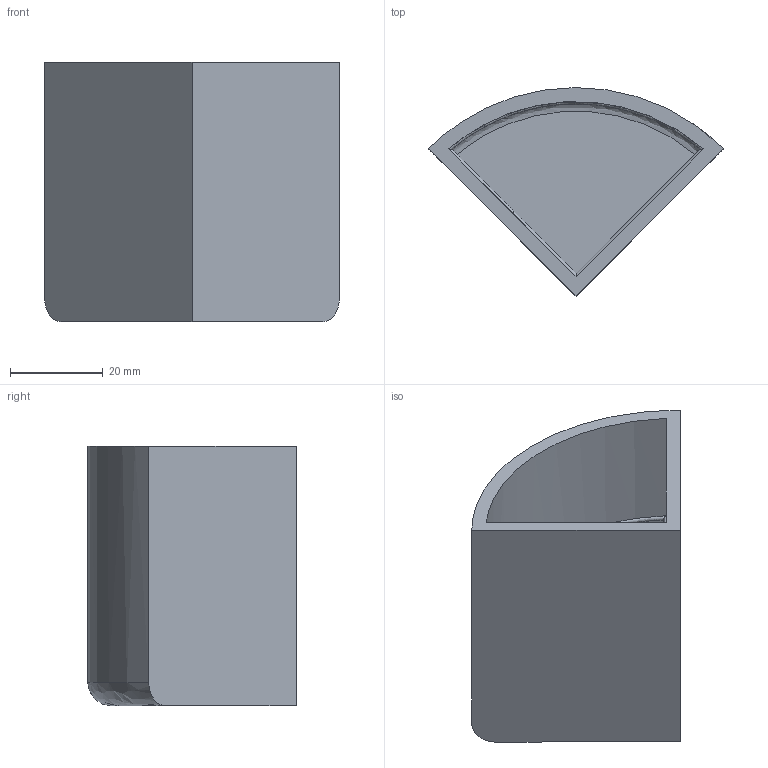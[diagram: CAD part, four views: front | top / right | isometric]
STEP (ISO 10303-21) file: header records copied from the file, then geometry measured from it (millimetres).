
FILE_DESCRIPTION(/* description */ (''),/* implementation_level */ '2;1');
FILE_NAME(/* name */ 'No Handle - 1-4 Cup',/* time_stamp */ '2020-01-31T12:03:51-08:00',/* author */ (''),/* organization */ (''),/* preprocessor_version */ 'ST-DEVELOPER v16.5',/* originating_system */ '',/* authorisation */ '');
FILE_SCHEMA (('AUTOMOTIVE_DESIGN'));
Length unit declared in the file: centimetre
Products named in the file (1): Document
Bounding box: 63.64 x 45 x 55.98 mm (x, y, z)
Volume: 28277.5 mm3; surface area: 19326.9 mm2
Topology: 1 solids, 1 shells, 18 faces, 39 edges, 24 vertices
Faces by surface type: bspline 9, plane 9
Entity records: 879 total; most frequent: CARTESIAN_POINT 606, ORIENTED_EDGE 78, EDGE_CURVE 39, B_SPLINE_CURVE_WITH_KNOTS 24, VERTEX_POINT 24, EDGE_LOOP 19, ADVANCED_FACE 18, FACE_OUTER_BOUND 18
